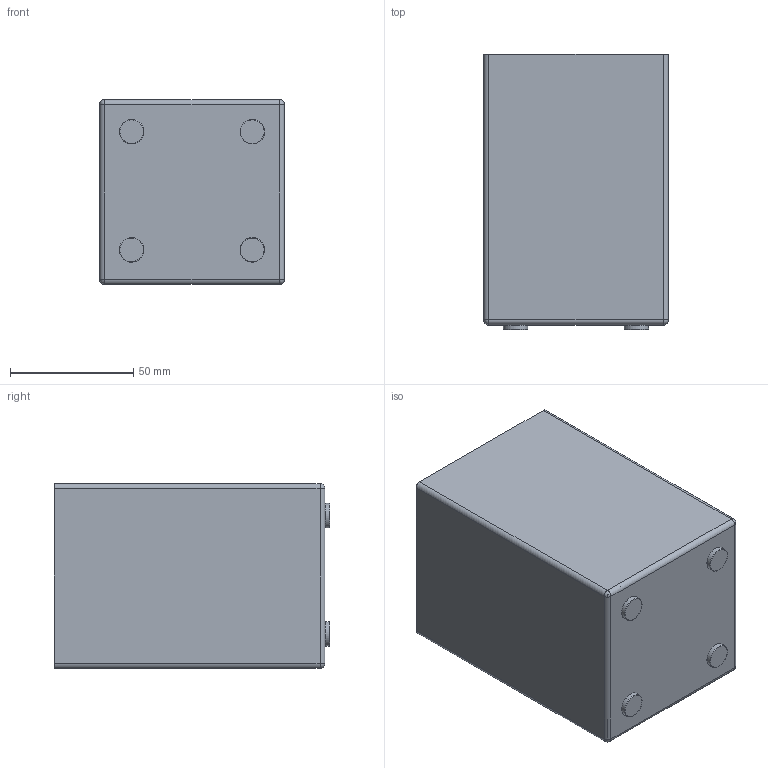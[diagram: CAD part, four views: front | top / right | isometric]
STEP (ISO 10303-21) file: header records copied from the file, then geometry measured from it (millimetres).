
FILE_DESCRIPTION(/* description */ (''),/* implementation_level */ '2;1');
FILE_NAME(/* name */ 'D:\DABSTORY\Folder dabstory pulpit - 16.03.2020\1. Oferta łazienkowa\Kubeczek FOGHI\Model 3d\Kubek na szczoteczki FOGHI.stp',/* time_stamp */ '2021-05-12T16:34:34+02:00',/* author */ ('Verical'),/* organization */ (''),/* preprocessor_version */ 'ST-DEVELOPER v17',/* originating_system */ 'Autodesk Inventor 2018',/* authorisation */ '');
FILE_SCHEMA (('AUTOMOTIVE_DESIGN { 1 0 10303 214 3 1 1 }'));
Length unit declared in the file: millimetre
Products named in the file (1): Kubek na szczoteczki FOGHI
Bounding box: 75 x 112 x 75 mm (x, y, z)
Volume: 54266.4 mm3; surface area: 100569.3 mm2
Topology: 1 solids, 1 shells, 147 faces, 371 edges, 236 vertices
Faces by surface type: plane 74, cylinder 59, torus 8, sphere 4, bspline 2
Full cylindrical faces by diameter (mm): 3 x1, 6.8 x4, 10 x4
Entity records: 4536 total; most frequent: CARTESIAN_POINT 817, DIRECTION 815, ORIENTED_EDGE 742, EDGE_CURVE 371, AXIS2_PLACEMENT_3D 302, VERTEX_POINT 236, LINE 211, VECTOR 211
